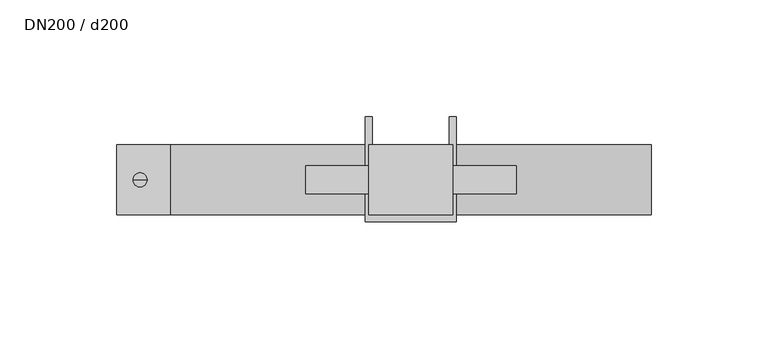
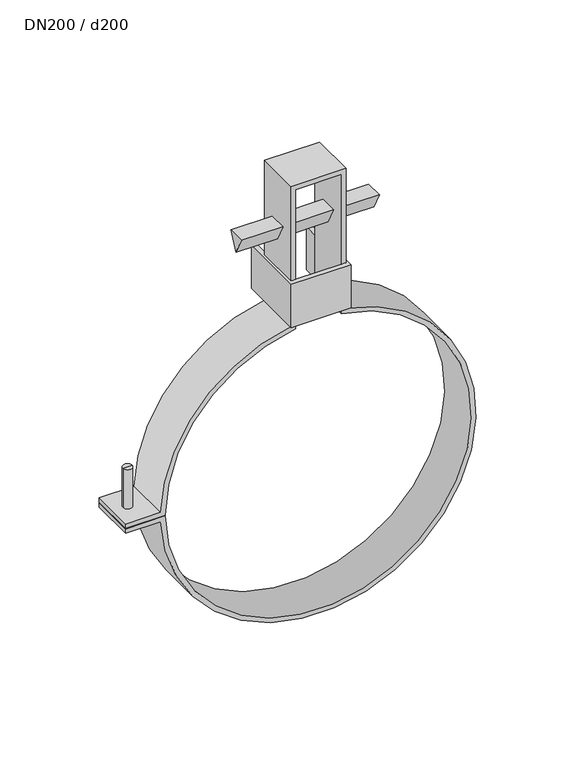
"""IFC4 building model written with IfcOpenShell, lengths in millimetres: unitary equipment geometry, NLRS_52_ME_UN_Geberit Pluvia beugel verstelbaar, met fixeerklem_PRO_101950 : DN200 / d200."""

from ifc_helpers import new_model, si_unit, frame, origin, place, context, project, spatial, polyline, circle_curve, source, transform, mapped, element, save
from ifc_brep_helpers import plane_surface, cylinder_surface, revolved_surface, advanced_brep


def dn200_d200_2ec0e471(model_context):
    return source(origin(), model_context, "Body", "AdvancedBrep", [
        advanced_brep(
        [(-100.0, -15.0, 0.0), (-15.0, -15.0, 98.8685997), (-15.0, -15.0, 103.0), (-16.5, -15.0, 103.0), (-18.0, -15.0, 103.0), (-18.0, -15.0, 101.414989), (-102.9563014, -15.0, 3.0), (-126.0, -15.0, 3.0), (-126.0, -15.0, 0.0), (-15.0, -15.0, 195.0), (15.0, -15.0, 195.0), (15.0, -15.0, 133.0), (16.5, -15.0, 133.0), (18.0, -15.0, 133.0), (18.0, -15.0, 198.0), (-18.0, -15.0, 198.0), (-18.0, -15.0, 133.0), (-16.5, -15.0, 133.0), (-15.0, -15.0, 133.0), (15.0, -15.0, 98.8685997), (-99.99875, -15.0, -0.5), (-126.0, -15.0, -0.5), (-126.0, -15.0, -3.5), (-102.9405168, -15.0, -3.5), (18.0, -15.0, 101.414989), (18.0, -15.0, 103.0), (16.5, -15.0, 103.0), (15.0, -15.0, 103.0), (-100.0, 15.0, 0.0), (-126.0, 15.0, 0.0), (-126.0, 15.0, 3.0), (-102.9563014, 15.0, 3.0), (-18.0, 15.0, 101.414989), (-18.0, 15.0, 103.0), (-16.5, 15.0, 103.0), (-16.5, 15.0, 133.0), (-18.0, 15.0, 133.0), (-18.0, 15.0, 198.0), (18.0, 15.0, 198.0), (18.0, 15.0, 133.0), (16.5, 15.0, 133.0), (16.5, 15.0, 103.0), (18.0, 15.0, 103.0), (18.0, 15.0, 101.414989), (-102.9405168, 15.0, -3.5), (-126.0, 15.0, -3.5), (-126.0, 15.0, -0.5), (-99.99875, 15.0, -0.5), (15.0, 15.0, 98.8685997), (15.0, 15.0, 195.0), (-15.0, 15.0, 195.0), (-15.0, 15.0, 98.8685997), (-119.0, 0.0, 3.0), (-113.0, 0.0, 3.0), (-113.0, 0.0, 0.0), (-119.0, 0.0, 0.0), (-119.0, 0.0, -0.5), (-113.0, 0.0, -0.5), (-111.0, 0.0, -3.5), (-121.0, 0.0, -3.5), (-15.0, 0.0, 153.0), (-15.0, -6.0, 165.0), (-15.0, 6.0, 165.0), (15.0, -6.0, 165.0), (15.0, 0.0, 153.0), (15.0, 6.0, 165.0), (18.0, 0.0, 153.0), (18.0, -6.0, 165.0), (18.0, 6.0, 165.0), (-18.0, -6.0, 165.0), (-18.0, 0.0, 153.0), (-18.0, 6.0, 165.0), (-116.0, 0.0, -5.4099578), (-121.0, 0.0, -5.4099578), (-111.0, 0.0, -5.4099578), (-113.0, 0.0, 30.0), (-119.0, 0.0, 30.0), (-116.0, 0.0, 30.0), (-45.0, 0.0, 153.0), (-45.0, -6.0, 165.0), (-45.0, 6.0, 165.0), (45.0, 0.0, 153.0), (45.0, 6.0, 165.0), (45.0, -6.0, 165.0), (16.5, 27.0, 103.0), (19.5, 27.0, 103.0), (19.5, -18.0, 103.0), (-19.5, -18.0, 103.0), (-19.5, 27.0, 103.0), (-16.5, 27.0, 103.0), (-16.5, 27.0, 133.0), (-19.5, 27.0, 133.0), (-19.5, -18.0, 133.0), (19.5, -18.0, 133.0), (19.5, 27.0, 133.0), (16.5, 27.0, 133.0)],
        [
            (0, 1, circle_curve(frame((0.0, -15.0, 0.0), z_axis=(0.0, 1.0, 0.0), x_axis=(1.0, 0.0, 0.0)), 100.0)),
            (1, 2),
            (2, 3),
            (3, 4),
            (4, 5),
            (5, 6, circle_curve(frame((0.0, -15.0, 0.0), z_axis=(0.0, -1.0, 0.0), x_axis=(1.0, 0.0, 0.0)), 103.0)),
            (6, 7),
            (7, 8),
            (8, 0),
            (9, 10),
            (10, 11),
            (11, 12),
            (12, 13),
            (13, 14),
            (14, 15),
            (15, 16),
            (16, 17),
            (17, 18),
            (18, 9),
            (19, 20, circle_curve(frame((0.0, -15.0, 0.0), z_axis=(0.0, 1.0, 0.0), x_axis=(1.0, 0.0, 0.0)), 100.0)),
            (20, 21),
            (21, 22),
            (22, 23),
            (23, 24, circle_curve(frame((0.0, -15.0, 0.0), z_axis=(0.0, -1.0, 0.0), x_axis=(1.0, 0.0, 0.0)), 103.0)),
            (24, 25),
            (25, 26),
            (26, 27),
            (27, 19),
            (28, 29),
            (29, 30),
            (30, 31),
            (31, 32, circle_curve(frame((0.0, 15.0, 0.0), z_axis=(0.0, 1.0, 0.0), x_axis=(1.0, 0.0, 0.0)), 103.0)),
            (32, 33),
            (33, 34),
            (34, 35),
            (35, 36),
            (36, 37),
            (37, 38),
            (38, 39),
            (39, 40),
            (40, 41),
            (41, 42),
            (42, 43),
            (43, 44, circle_curve(frame((0.0, 15.0, 0.0), z_axis=(0.0, 1.0, 0.0), x_axis=(1.0, 0.0, 0.0)), 103.0)),
            (44, 45),
            (45, 46),
            (46, 47),
            (47, 48, circle_curve(frame((0.0, 15.0, 0.0), z_axis=(0.0, -1.0, 0.0), x_axis=(1.0, 0.0, 0.0)), 100.0)),
            (48, 49),
            (49, 50),
            (50, 51),
            (51, 28, circle_curve(frame((0.0, 15.0, 0.0), z_axis=(0.0, -1.0, 0.0), x_axis=(1.0, 0.0, 0.0)), 100.0)),
            (0, 28),
            (51, 1),
            (19, 48),
            (47, 20),
            (5, 32),
            (31, 6),
            (23, 44),
            (43, 24),
            (30, 7),
            (52, 53, circle_curve(frame((-116.0, 0.0, 3.0), z_axis=(0.0, 0.0, -1.0), x_axis=(-1.0, 0.0, 0.0)), 3.0)),
            (53, 52, circle_curve(frame((-116.0, 0.0, 3.0), z_axis=(0.0, 0.0, -1.0), x_axis=(-1.0, 0.0, 0.0)), 3.0)),
            (8, 29),
            (54, 55, circle_curve(frame((-116.0, 0.0, 0.0), z_axis=(0.0, 0.0, 1.0), x_axis=(-1.0, 0.0, 0.0)), 3.0)),
            (55, 54, circle_curve(frame((-116.0, 0.0, 0.0), z_axis=(0.0, 0.0, 1.0), x_axis=(-1.0, 0.0, 0.0)), 3.0)),
            (46, 21),
            (56, 57, circle_curve(frame((-116.0, 0.0, -0.5), z_axis=(0.0, 0.0, -1.0), x_axis=(-1.0, 0.0, 0.0)), 3.0)),
            (57, 56, circle_curve(frame((-116.0, 0.0, -0.5), z_axis=(0.0, 0.0, -1.0), x_axis=(-1.0, 0.0, 0.0)), 3.0)),
            (22, 45),
            (58, 59, circle_curve(frame((-116.0, 0.0, -3.5), z_axis=(0.0, 0.0, 1.0), x_axis=(-1.0, 0.0, 0.0)), 5.0)),
            (59, 58, circle_curve(frame((-116.0, 0.0, -3.5), z_axis=(0.0, 0.0, 1.0), x_axis=(-1.0, 0.0, 0.0)), 5.0)),
            (50, 9),
            (18, 2),
            (60, 61),
            (61, 62),
            (62, 60),
            (49, 10),
            (27, 11),
            (63, 64),
            (64, 65),
            (65, 63),
            (42, 25),
            (38, 14),
            (13, 39),
            (66, 67),
            (67, 68),
            (68, 66),
            (37, 15),
            (4, 33),
            (36, 16),
            (69, 70),
            (70, 71),
            (71, 69),
            (72, 73),
            (73, 74, circle_curve(frame((-116.0, 0.0, -5.4099578), z_axis=(0.0, 0.0, -1.0), x_axis=(-1.0, 0.0, 0.0)), 5.0)),
            (74, 72),
            (74, 73, circle_curve(frame((-116.0, 0.0, -5.4099578), z_axis=(0.0, 0.0, -1.0), x_axis=(-1.0, 0.0, 0.0)), 5.0)),
            (75, 76, circle_curve(frame((-116.0, 0.0, 30.0), z_axis=(0.0, 0.0, 1.0), x_axis=(-1.0, 0.0, 0.0)), 3.0)),
            (76, 77),
            (77, 75),
            (76, 75, circle_curve(frame((-116.0, 0.0, 30.0), z_axis=(0.0, 0.0, 1.0), x_axis=(-1.0, 0.0, 0.0)), 3.0)),
            (75, 53),
            (52, 76),
            (56, 55),
            (54, 57),
            (73, 59),
            (58, 74),
            (78, 79),
            (79, 80),
            (80, 78),
            (81, 82),
            (82, 83),
            (83, 81),
            (78, 70),
            (69, 79),
            (83, 67),
            (66, 81),
            (60, 64),
            (63, 61),
            (71, 80),
            (82, 68),
            (65, 62),
            (84, 85),
            (85, 86),
            (86, 87),
            (87, 88),
            (88, 89),
            (89, 34),
            (2, 27),
            (41, 84),
            (90, 91),
            (91, 92),
            (92, 93),
            (93, 94),
            (94, 95),
            (95, 40),
            (11, 18),
            (35, 90),
            (95, 84),
            (94, 85),
            (93, 86),
            (92, 87),
            (91, 88),
            (90, 89),
        ],
        [
            plane_surface(frame((100.0, -15.0, 0.0), z_axis=(0.0, -1.0, 0.0), x_axis=(0.0, 0.0, -1.0))),
            plane_surface(frame((100.0, 15.0, 0.0), z_axis=(0.0, 1.0, 0.0), x_axis=(0.0, 0.0, 1.0))),
            revolved_surface(polyline([(100.0, 15.0, 0.0), (100.0, -15.0, 0.0)]), (0.0, 15.0, 0.0), (0.0, 1.0, 0.0)),
            cylinder_surface(frame((0.0, 15.0, 0.0), z_axis=(0.0, -1.0, 0.0), x_axis=(1.0, 0.0, 0.0)), 103.0),
            plane_surface(frame((-102.9563014, -15.0, 3.0), z_axis=(0.0, 0.0, 1.0), x_axis=(0.0, 1.0, 0.0))),
            plane_surface(frame((-126.0, -15.0, 0.0), z_axis=(0.0, 0.0, -1.0), x_axis=(0.0, 1.0, 0.0))),
            plane_surface(frame((-99.99875, -15.0, -0.5), z_axis=(0.0, 0.0, 1.0), x_axis=(0.0, 1.0, 0.0))),
            plane_surface(frame((-126.0, -15.0, -3.5), z_axis=(0.0, 0.0, -1.0), x_axis=(0.0, 1.0, 0.0))),
            plane_surface(frame((-126.0, -15.0, 3.0), z_axis=(-1.0, 0.0, 9.582246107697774e-12), x_axis=(0.0, 1.0, 0.0))),
            plane_surface(frame((-126.0, -15.0, -0.5), z_axis=(-1.0, 0.0, 0.0), x_axis=(0.0, 1.0, 0.0))),
            plane_surface(frame((-15.0, -15.0, 98.8685997), z_axis=(1.0, 0.0, 0.0), x_axis=(0.0, 1.0, 0.0))),
            plane_surface(frame((-15.0, -15.0, 195.0), z_axis=(0.0, 0.0, -1.0), x_axis=(0.0, 1.0, 0.0))),
            plane_surface(frame((15.0, -15.0, 195.0), z_axis=(-1.0, 0.0, 0.0), x_axis=(0.0, 1.0, 0.0))),
            plane_surface(frame((18.0, -15.0, 101.414989), z_axis=(1.0, 0.0, 0.0), x_axis=(0.0, 1.0, 0.0))),
            plane_surface(frame((18.0, -15.0, 198.0), z_axis=(0.0, 0.0, 1.0), x_axis=(0.0, 1.0, 0.0))),
            plane_surface(frame((-18.0, -15.0, 198.0), z_axis=(-1.0, 0.0, 0.0), x_axis=(0.0, 1.0, 0.0))),
            plane_surface(frame((-116.0, 0.0, -5.4099578), z_axis=(0.0, 0.0, -1.0), x_axis=(-1.0, 0.0, 0.0))),
            plane_surface(frame((-116.0, 0.0, 30.0), z_axis=(0.0, 0.0, 1.0), x_axis=(-1.0, 0.0, 0.0))),
            cylinder_surface(frame((-116.0, 0.0, 30.0), z_axis=(0.0, 0.0, -1.0), x_axis=(-1.0, 0.0, 0.0)), 3.0),
            cylinder_surface(frame((-116.0, 0.0, 30.0), z_axis=(0.0, 0.0, -1.0), x_axis=(-1.0, 0.0, 0.0)), 5.0),
            plane_surface(frame((-45.0, 0.0, 0.0), z_axis=(-1.0, 0.0, 0.0), x_axis=(0.0, 0.0, 1.0))),
            plane_surface(frame((45.0, 0.0, 0.0), z_axis=(1.0, 0.0, 0.0), x_axis=(0.0, 0.0, 1.0))),
            plane_surface(frame((-45.0, 0.0, 153.0), z_axis=(0.0, -0.8944271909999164, -0.4472135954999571), x_axis=(1.0, 0.0, 0.0))),
            plane_surface(frame((-45.0, -6.0, 165.0), z_axis=(0.0, 0.0, 1.0), x_axis=(1.0, 0.0, 0.0))),
            plane_surface(frame((-45.0, 6.0, 165.0), z_axis=(0.0, 0.8944271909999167, -0.4472135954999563), x_axis=(1.0, 0.0, 0.0))),
            plane_surface(frame((0.0, 0.0, 103.0), z_axis=(0.0, 0.0, -1.0), x_axis=(0.0, -1.0, 0.0))),
            plane_surface(frame((0.0, 0.0, 133.0), z_axis=(0.0, 0.0, 1.0), x_axis=(0.0, -1.0, 0.0))),
            plane_surface(frame((-16.5, -15.0, 103.0), z_axis=(0.0, 1.0, 0.0), x_axis=(0.0, 0.0, 1.0))),
            plane_surface(frame((16.5, -15.0, 103.0), z_axis=(-1.0, 0.0, 0.0), x_axis=(0.0, 0.0, 1.0))),
            plane_surface(frame((16.5, 27.0, 103.0), z_axis=(0.0, 1.0, 0.0), x_axis=(0.0, 0.0, 1.0))),
            plane_surface(frame((19.5, 27.0, 103.0), z_axis=(1.0, 0.0, 0.0), x_axis=(0.0, 0.0, 1.0))),
            plane_surface(frame((19.5, -18.0, 103.0), z_axis=(0.0, -1.0, 0.0), x_axis=(0.0, 0.0, 1.0))),
            plane_surface(frame((-19.5, -18.0, 103.0), z_axis=(-1.0, 0.0, 0.0), x_axis=(0.0, 0.0, 1.0))),
            plane_surface(frame((-19.5, 27.0, 103.0), z_axis=(0.0, 1.0, 0.0), x_axis=(0.0, 0.0, 1.0))),
            plane_surface(frame((-16.5, 27.0, 103.0), z_axis=(1.0, 0.0, 0.0), x_axis=(0.0, 0.0, 1.0))),
        ],
        [
            (0, [[1, 2, 3, 4, 5, 6, 7, 8, 9]]),
            (0, [[10, 11, 12, 13, 14, 15, 16, 17, 18, 19]]),
            (0, [[20, 21, 22, 23, 24, 25, 26, 27, 28]]),
            (1, [[29, 30, 31, 32, 33, 34, 35, 36, 37, 38, 39, 40, 41, 42, 43, 44, 45, 46, 47, 48, 49, 50, 51, 52]]),
            (2, [[-1, 53, -52, 54]]),
            (2, [[-20, 55, -48, 56]]),
            (3, [[-6, 57, -32, 58]]),
            (3, [[-24, 59, -44, 60]]),
            (4, [[-7, -58, -31, 61], [62, 63]]),
            (5, [[-9, 64, -29, -53], [65, 66]]),
            (6, [[-21, -56, -47, 67], [68, 69]]),
            (7, [[-23, 70, -45, -59], [71, 72]]),
            (8, [[-8, -61, -30, -64]]),
            (9, [[-22, -67, -46, -70]]),
            (10, [[-51, 73, -19, 74, -2, -54], [75, 76, 77]]),
            (11, [[-10, -73, -50, 78]]),
            (12, [[-49, -55, -28, 79, -11, -78], [80, 81, 82]]),
            (13, [[-60, -43, 83, -25]]),
            (13, [[84, -14, 85, -39], [86, 87, 88]]),
            (14, [[-15, -84, -38, 89]]),
            (15, [[-57, -5, 90, -33]]),
            (15, [[-89, -37, 91, -16], [92, 93, 94]]),
            (16, [[95, 96, 97]]),
            (16, [[-95, -97, 98]]),
            (17, [[99, 100, 101]]),
            (17, [[-100, 102, -101]]),
            (18, [[-99, 103, -62, 104]]),
            (18, [[105, -65, 106, -68]]),
            (18, [[-102, -104, -63, -103]]),
            (18, [[-105, -69, -106, -66]]),
            (19, [[-96, 107, -71, 108]]),
            (19, [[-98, -108, -72, -107]]),
            (20, [[109, 110, 111]]),
            (21, [[112, 113, 114]]),
            (22, [[-109, 115, -92, 116]]),
            (22, [[-114, 117, -86, 118]]),
            (22, [[119, -80, 120, -75]]),
            (23, [[-110, -116, -94, 121]]),
            (23, [[-113, 122, -87, -117]]),
            (23, [[-120, -82, 123, -76]]),
            (24, [[-111, -121, -93, -115]]),
            (24, [[-112, -118, -88, -122]]),
            (24, [[-119, -77, -123, -81]]),
            (25, [[124, 125, 126, 127, 128, 129, -34, -90, -4, -3, 130, -27, -26, -83, -42, 131]]),
            (26, [[132, 133, 134, 135, 136, 137, -40, -85, -13, -12, 138, -18, -17, -91, -36, 139]]),
            (27, [[-130, -74, -138, -79]]),
            (28, [[140, -131, -41, -137]]),
            (29, [[-124, -140, -136, 141]]),
            (30, [[-125, -141, -135, 142]]),
            (31, [[-126, -142, -134, 143]]),
            (32, [[-127, -143, -133, 144]]),
            (33, [[-128, -144, -132, 145]]),
            (34, [[-145, -139, -35, -129]]),
        ],
    ),
    ])


if __name__ == "__main__":
    model = new_model("IFC4")
    model_context = context("Model", 3, world=origin())
    ifc_project = project(units=[si_unit("LENGTHUNIT", "METRE", prefix="MILLI")], contexts=[model_context])
    site = spatial("IfcSite", under=ifc_project)
    building = spatial("IfcBuilding", under=site)
    placement = place(None, origin())
    dn200_d200_shape = dn200_d200_2ec0e471(model_context)
    element("IfcUnitaryEquipment", 1, ObjectType="NLRS_52_ME_UN_Geberit Pluvia beugel verstelbaar, met fixeerklem_PRO_101950 : DN200 / d200", at=placement, inside=building, context=model_context, shape_type="MappedRepresentation", body=[
        mapped(dn200_d200_shape, transform((0.0, 0.0, 0.0), x_axis=(1.0, 0.0, 0.0), y_axis=(0.0, 1.0, 0.0), z_axis=(0.0, 0.0, 1.0))),
    ])
    save(model, "model.ifc")
